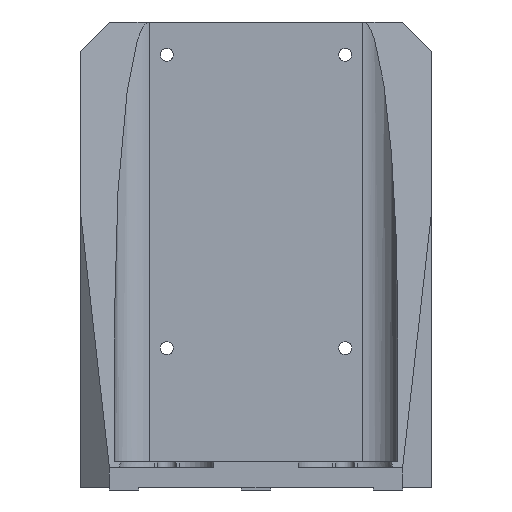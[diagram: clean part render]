
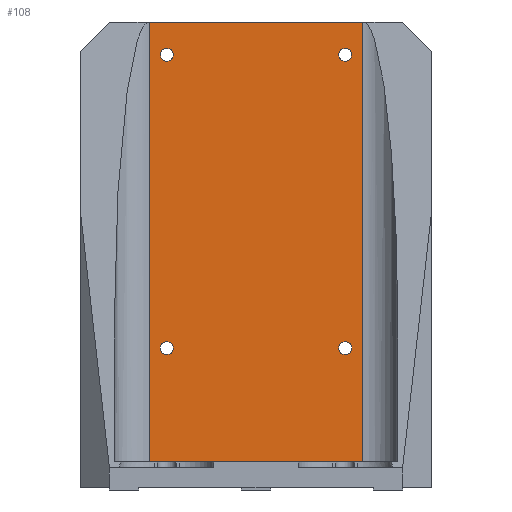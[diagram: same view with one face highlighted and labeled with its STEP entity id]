
A CAD part, left-side view. The second image highlights one B-rep face of the part: STEP entity #108.
In plain terms, the highlighted planar face has unit normal (-1, 0, 0).
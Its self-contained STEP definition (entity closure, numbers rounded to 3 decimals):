
#34=FACE_BOUND('',#247,.T.);
#35=FACE_BOUND('',#248,.T.);
#36=FACE_BOUND('',#249,.T.);
#37=FACE_BOUND('',#250,.T.);
#38=FACE_BOUND('',#251,.T.);
#82=CIRCLE('',#1092,0.55);
#83=CIRCLE('',#1093,0.55);
#84=CIRCLE('',#1094,0.55);
#85=CIRCLE('',#1095,0.55);
#108=ADVANCED_FACE('',(#34,#35,#36,#37,#38),#161,.F.);
#161=PLANE('',#1096);
#247=EDGE_LOOP('',(#352));
#248=EDGE_LOOP('',(#353));
#249=EDGE_LOOP('',(#354));
#250=EDGE_LOOP('',(#355));
#251=EDGE_LOOP('',(#356,#357,#358,#359));
#352=ORIENTED_EDGE('',*,*,#740,.T.);
#353=ORIENTED_EDGE('',*,*,#741,.T.);
#354=ORIENTED_EDGE('',*,*,#742,.T.);
#355=ORIENTED_EDGE('',*,*,#743,.T.);
#356=ORIENTED_EDGE('',*,*,#727,.F.);
#357=ORIENTED_EDGE('',*,*,#744,.T.);
#358=ORIENTED_EDGE('',*,*,#745,.F.);
#359=ORIENTED_EDGE('',*,*,#746,.T.);
#627=VERTEX_POINT('',#1500);
#628=VERTEX_POINT('',#1502);
#639=VERTEX_POINT('',#1527);
#640=VERTEX_POINT('',#1529);
#641=VERTEX_POINT('',#1531);
#642=VERTEX_POINT('',#1533);
#643=VERTEX_POINT('',#1535);
#644=VERTEX_POINT('',#1537);
#727=EDGE_CURVE('',#627,#628,#869,.T.);
#740=EDGE_CURVE('',#639,#639,#82,.T.);
#741=EDGE_CURVE('',#640,#640,#83,.T.);
#742=EDGE_CURVE('',#641,#641,#84,.T.);
#743=EDGE_CURVE('',#642,#642,#85,.T.);
#744=EDGE_CURVE('',#627,#643,#876,.T.);
#745=EDGE_CURVE('',#644,#643,#877,.T.);
#746=EDGE_CURVE('',#644,#628,#878,.T.);
#869=LINE('',#1501,#983);
#876=LINE('',#1534,#990);
#877=LINE('',#1536,#991);
#878=LINE('',#1538,#992);
#983=VECTOR('',#1198,1.);
#990=VECTOR('',#1227,1.);
#991=VECTOR('',#1228,1.);
#992=VECTOR('',#1229,1.);
#1092=AXIS2_PLACEMENT_3D('',#1526,#1219,#1220);
#1093=AXIS2_PLACEMENT_3D('',#1528,#1221,#1222);
#1094=AXIS2_PLACEMENT_3D('',#1530,#1223,#1224);
#1095=AXIS2_PLACEMENT_3D('',#1532,#1225,#1226);
#1096=AXIS2_PLACEMENT_3D('',#1539,#1230,#1231);
#1198=DIRECTION('',(0.,1.,0.));
#1219=DIRECTION('',(1.,0.,0.));
#1220=DIRECTION('',(0.,1.,0.));
#1221=DIRECTION('',(1.,0.,0.));
#1222=DIRECTION('',(0.,1.,0.));
#1223=DIRECTION('',(1.,0.,0.));
#1224=DIRECTION('',(0.,1.,0.));
#1225=DIRECTION('',(1.,0.,0.));
#1226=DIRECTION('',(0.,1.,0.));
#1227=DIRECTION('',(0.,0.,1.));
#1228=DIRECTION('',(0.,-1.,0.));
#1229=DIRECTION('',(0.,0.,-1.));
#1230=DIRECTION('',(1.,0.,0.));
#1231=DIRECTION('',(0.,1.,0.));
#1500=CARTESIAN_POINT('',(-10.7,-9.1,2.2));
#1501=CARTESIAN_POINT('',(-10.7,-15.,2.2));
#1502=CARTESIAN_POINT('',(-10.7,9.1,2.2));
#1526=CARTESIAN_POINT('',(-10.7,-7.6,36.9));
#1527=CARTESIAN_POINT('',(-10.7,-7.05,36.9));
#1528=CARTESIAN_POINT('',(-10.7,7.6,36.9));
#1529=CARTESIAN_POINT('',(-10.7,8.15,36.9));
#1530=CARTESIAN_POINT('',(-10.7,7.6,11.9));
#1531=CARTESIAN_POINT('',(-10.7,8.15,11.9));
#1532=CARTESIAN_POINT('',(-10.7,-7.6,11.9));
#1533=CARTESIAN_POINT('',(-10.7,-7.05,11.9));
#1534=CARTESIAN_POINT('',(-10.7,-9.1,39.7));
#1535=CARTESIAN_POINT('',(-10.7,-9.1,39.7));
#1536=CARTESIAN_POINT('',(-10.7,15.,39.7));
#1537=CARTESIAN_POINT('',(-10.7,9.1,39.7));
#1538=CARTESIAN_POINT('',(-10.7,9.1,39.7));
#1539=CARTESIAN_POINT('',(-10.7,15.,39.7));
